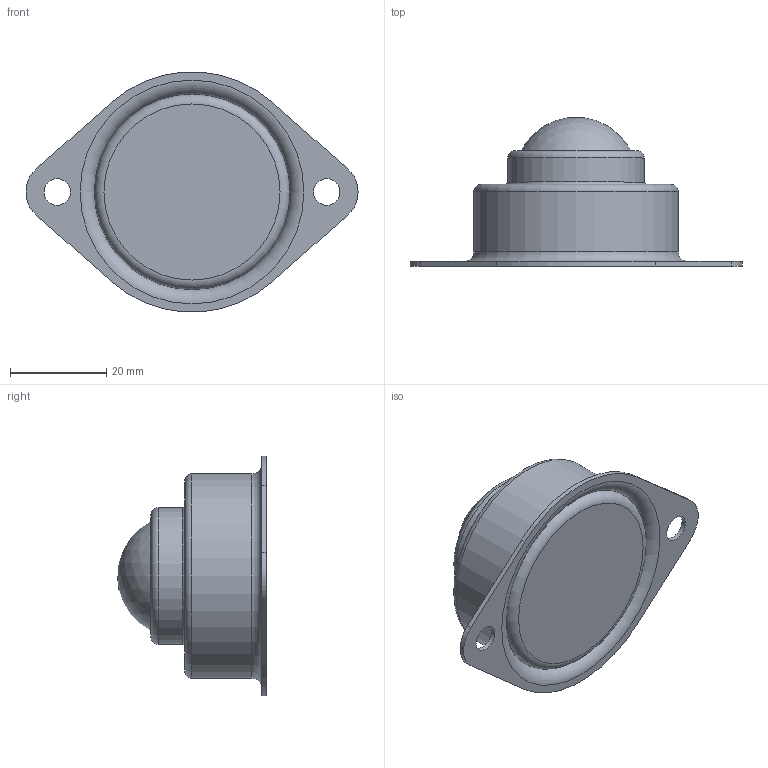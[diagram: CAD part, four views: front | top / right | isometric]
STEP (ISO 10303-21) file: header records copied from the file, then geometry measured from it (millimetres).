
FILE_DESCRIPTION(/* description */ (''),/* implementation_level */ '2;1');
FILE_NAME(/* name */ '\\Cad-sv\共有\ISB\35-j-ito\製品モデル\IM-R\IM-25R\座金レス仕様\3925AA(HP用).stp',/* time_stamp */ '2021-04-19T09:42:01+09:00',/* author */ ('j-ito'),/* organization */ (''),/* preprocessor_version */ 'ST-DEVELOPER v18.1',/* originating_system */ 'Autodesk Inventor 2022',/* authorisation */ '');
FILE_SCHEMA (('AUTOMOTIVE_DESIGN { 1 0 10303 214 3 1 1 }'));
Length unit declared in the file: millimetre
Products named in the file (1): IM-25
Bounding box: 69 x 30.92 x 49.84 mm (x, y, z)
Volume: 30650.4 mm3; surface area: 7711.6 mm2
Topology: 1 solids, 1 shells, 25 faces, 58 edges, 39 vertices
Faces by surface type: cylinder 9, plane 9, torus 6, sphere 1
Full cylindrical faces by diameter (mm): 5.5 x2, 28.4 x1, 40.6 x1, 42.5 x1
Entity records: 786 total; most frequent: DIRECTION 147, CARTESIAN_POINT 123, ORIENTED_EDGE 116, AXIS2_PLACEMENT_3D 63, EDGE_CURVE 58, VERTEX_POINT 39, CIRCLE 37, EDGE_LOOP 33
